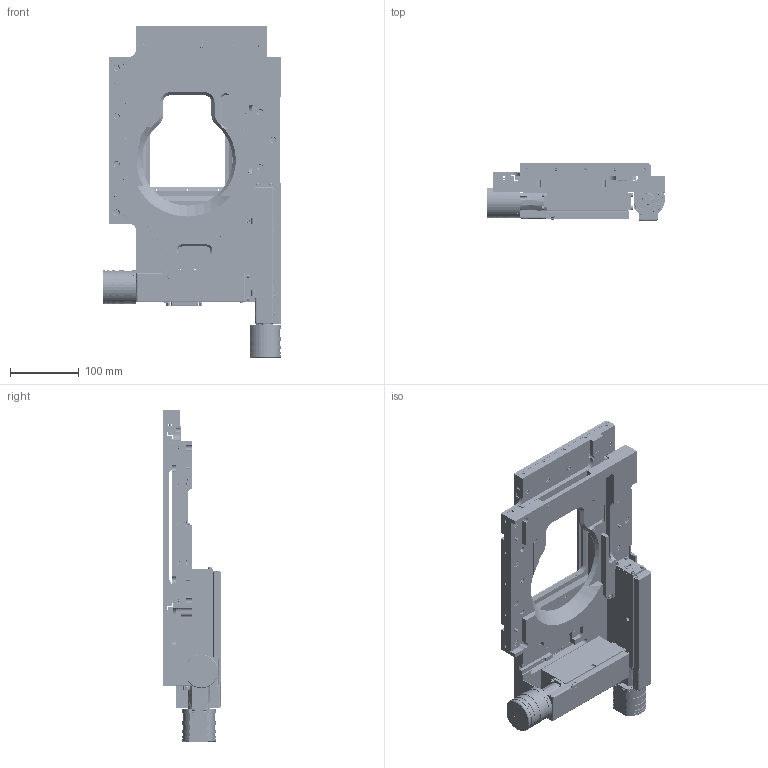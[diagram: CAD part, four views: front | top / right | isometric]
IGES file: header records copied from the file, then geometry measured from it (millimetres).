
Start section: SolidWorks IGES file using analytic representation for surfaces
Global section: file name: C:\1-DATA-FILES-FOR-PROJECTS\2022-PRODUCT-REFERENCE-MODELS\6-SECOND-BATCH-STAGES\2-H117P2DM\2-H117P2DM-REFERENCE-PARTS\H117P2DM_REFERENCE-IGES.IGS; native system: SolidWorks 2019; preprocessor: SolidWorks 2019; author: jwilliams; date: 220203.135527; units: inch
Bounding box: 259.3 x 82.9 x 481.52 mm (x, y, z)
Surface area: 735750.5 mm2 (no closed solid volume)
Topology: 0 solids, 0 shells, 6245 faces, 75726 edges, 75524 vertices
Faces by surface type: bspline 3511, revolution 2734
